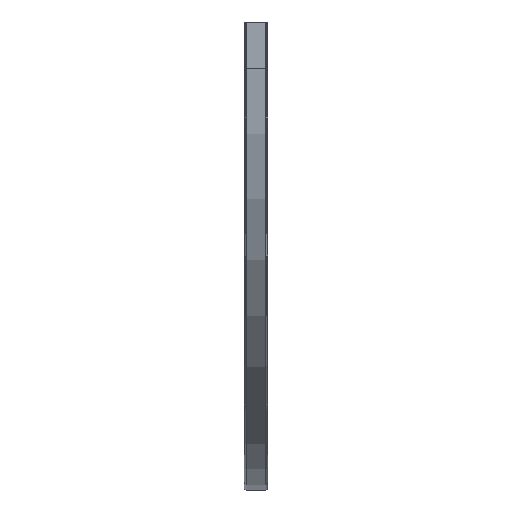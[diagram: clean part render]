
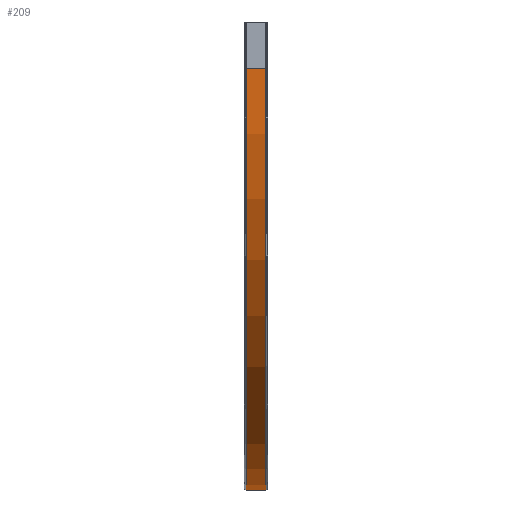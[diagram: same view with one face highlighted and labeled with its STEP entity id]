
A CAD part, left-side view. The second image highlights one B-rep face of the part: STEP entity #209.
In plain terms, the highlighted cylindrical face has radius 690.562 mm (diameter 1381.12 mm), a partial arc.
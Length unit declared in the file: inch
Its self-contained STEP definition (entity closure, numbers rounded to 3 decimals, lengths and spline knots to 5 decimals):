
#209 = ADVANCED_FACE ( 'NONE', ( #5731 ), #5244, .T. ) ;
#257 = VERTEX_POINT ( 'NONE', #1133 ) ;
#465 = EDGE_CURVE ( 'NONE', #257, #6303, #1409, .T. ) ;
#526 = LINE ( 'NONE', #3152, #2535 ) ;
#815 = CARTESIAN_POINT ( 'NONE',  ( 0., -0.635, 0. ) ) ;
#878 = CIRCLE ( 'NONE', #5154, 27.1875 ) ;
#977 = CARTESIAN_POINT ( 'NONE',  ( 0., 0.635, -27.1875 ) ) ;
#1133 = CARTESIAN_POINT ( 'NONE',  ( 0., -0.635, -27.1875 ) ) ;
#1149 = ORIENTED_EDGE ( 'NONE', *, *, #465, .F. ) ;
#1407 = ORIENTED_EDGE ( 'NONE', *, *, #4830, .F. ) ;
#1409 = LINE ( 'NONE', #977, #4536 ) ;
#1553 = CIRCLE ( 'NONE', #2299, 27.1875 ) ;
#1584 = CARTESIAN_POINT ( 'NONE',  ( -27.1875, -0.635, 0. ) ) ;
#1622 = VERTEX_POINT ( 'NONE', #3993 ) ;
#1986 = DIRECTION ( 'NONE',  ( 0., 1., 0. ) ) ;
#2299 = AXIS2_PLACEMENT_3D ( 'NONE', #4112, #4842, #2376 ) ;
#2366 = DIRECTION ( 'NONE',  ( 0., 0., 1. ) ) ;
#2376 = DIRECTION ( 'NONE',  ( 0., 0., -1. ) ) ;
#2412 = EDGE_CURVE ( 'NONE', #257, #2693, #878, .T. ) ;
#2535 = VECTOR ( 'NONE', #5599, 39.37008 ) ;
#2693 = VERTEX_POINT ( 'NONE', #1584 ) ;
#2766 = AXIS2_PLACEMENT_3D ( 'NONE', #2768, #4763, #2366 ) ;
#2768 = CARTESIAN_POINT ( 'NONE',  ( 0., 0., 0. ) ) ;
#3042 = CARTESIAN_POINT ( 'NONE',  ( 0., 0.635, -27.1875 ) ) ;
#3088 = EDGE_CURVE ( 'NONE', #2693, #1622, #526, .T. ) ;
#3152 = CARTESIAN_POINT ( 'NONE',  ( -27.1875, 0.635, 0. ) ) ;
#3830 = ORIENTED_EDGE ( 'NONE', *, *, #3088, .T. ) ;
#3993 = CARTESIAN_POINT ( 'NONE',  ( -27.1875, 0.635, 0. ) ) ;
#4112 = CARTESIAN_POINT ( 'NONE',  ( 0., 0.635, 0. ) ) ;
#4536 = VECTOR ( 'NONE', #1986, 39.37008 ) ;
#4746 = DIRECTION ( 'NONE',  ( 0., 1., 0. ) ) ;
#4763 = DIRECTION ( 'NONE',  ( 0., 1., 0. ) ) ;
#4830 = EDGE_CURVE ( 'NONE', #6303, #1622, #1553, .T. ) ;
#4842 = DIRECTION ( 'NONE',  ( 0., 1., 0. ) ) ;
#5154 = AXIS2_PLACEMENT_3D ( 'NONE', #815, #4746, #5822 ) ;
#5185 = EDGE_LOOP ( 'NONE', ( #1407, #1149, #5765, #3830 ) ) ;
#5244 = CYLINDRICAL_SURFACE ( 'NONE', #2766, 27.1875 ) ;
#5599 = DIRECTION ( 'NONE',  ( 0., 1., 0. ) ) ;
#5731 = FACE_OUTER_BOUND ( 'NONE', #5185, .T. ) ;
#5765 = ORIENTED_EDGE ( 'NONE', *, *, #2412, .T. ) ;
#5822 = DIRECTION ( 'NONE',  ( 0., 0., -1. ) ) ;
#6303 = VERTEX_POINT ( 'NONE', #3042 ) ;
